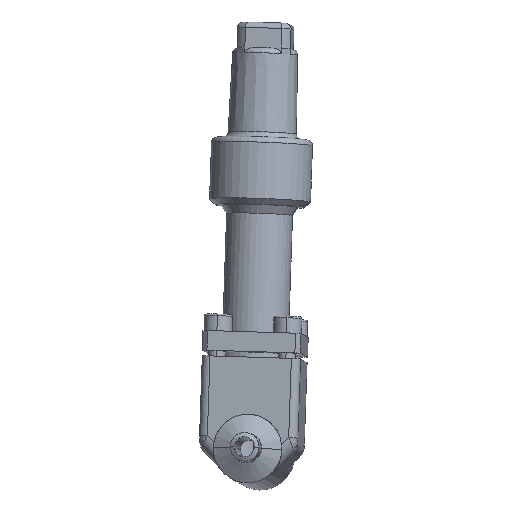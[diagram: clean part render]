
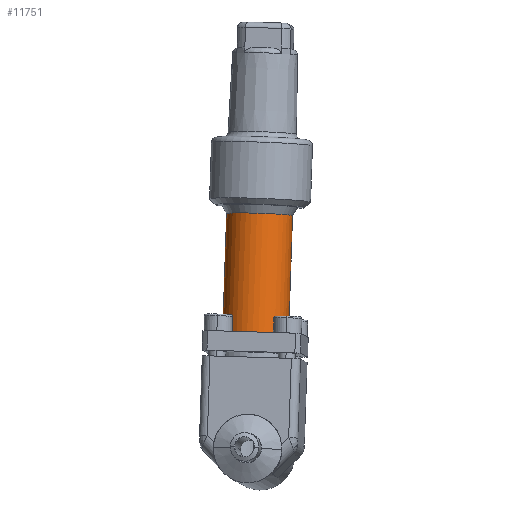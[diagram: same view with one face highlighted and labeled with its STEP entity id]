
A CAD part, top view. The second image highlights one B-rep face of the part: STEP entity #11751.
In plain terms, the highlighted cylindrical face has radius 11.75 mm (diameter 23.5 mm), a partial arc.
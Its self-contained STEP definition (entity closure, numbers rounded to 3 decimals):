
#2225 = FACE_OUTER_BOUND ( 'NONE', #11522, .T. ) ;
#2244 = CYLINDRICAL_SURFACE ( 'NONE', #2245, 11.75 ) ;
#2245 = AXIS2_PLACEMENT_3D ( 'NONE', #2248, #2249, #2250 ) ;
#2248 = CARTESIAN_POINT ( 'NONE',  ( 0., 0., -52.5 ) ) ;
#2249 = DIRECTION ( 'NONE',  ( 0., 0., 1. ) ) ;
#2250 = DIRECTION ( 'NONE',  ( 1., 0., 0. ) ) ;
#5359 = LINE ( 'NONE', #5360, #5362 ) ;
#5360 = CARTESIAN_POINT ( 'NONE',  ( 11.75, 0., -52.5 ) ) ;
#5362 = VECTOR ( 'NONE', #5363, 1000. ) ;
#5363 = DIRECTION ( 'NONE',  ( 0., 0., 1. ) ) ;
#6529 = CARTESIAN_POINT ( 'NONE',  ( -11.75, 0., -49.469 ) ) ;
#8079 = EDGE_CURVE ( 'NONE', #13270, #13031, #5359, .T. ) ;
#8411 = CIRCLE ( 'NONE', #8412, 11.75 ) ;
#8412 = AXIS2_PLACEMENT_3D ( 'NONE', #8413, #8414, #8415 ) ;
#8413 = CARTESIAN_POINT ( 'NONE',  ( 0., 0., -7.2 ) ) ;
#8414 = DIRECTION ( 'NONE',  ( 0., 0., -1. ) ) ;
#8415 = DIRECTION ( 'NONE',  ( 1., 0., 0. ) ) ;
#8438 = ORIENTED_EDGE ( 'NONE', *, *, #8079, .F. ) ;
#8453 = CARTESIAN_POINT ( 'NONE',  ( 11.75, 0., -7.2 ) ) ;
#8940 = EDGE_CURVE ( 'NONE', #13154, #13031, #8411, .T. ) ;
#9293 = ORIENTED_EDGE ( 'NONE', *, *, #8940, .T. ) ;
#9797 = EDGE_CURVE ( 'NONE', #12975, #13154, #13825, .T. ) ;
#10159 = ORIENTED_EDGE ( 'NONE', *, *, #9797, .T. ) ;
#10657 = EDGE_CURVE ( 'NONE', #12975, #13270, #14455, .T. ) ;
#11019 = ORIENTED_EDGE ( 'NONE', *, *, #10657, .F. ) ;
#11354 = CARTESIAN_POINT ( 'NONE',  ( -11.75, 0., -7.2 ) ) ;
#11522 = EDGE_LOOP ( 'NONE', ( #11019, #10159, #9293, #8438 ) ) ;
#11751 = ADVANCED_FACE ( 'NONE', ( #2225 ), #2244, .T. ) ;
#12365 = CARTESIAN_POINT ( 'NONE',  ( 11.75, 0., -49.469 ) ) ;
#12975 = VERTEX_POINT ( 'NONE', #6529 ) ;
#13031 = VERTEX_POINT ( 'NONE', #8453 ) ;
#13154 = VERTEX_POINT ( 'NONE', #11354 ) ;
#13270 = VERTEX_POINT ( 'NONE', #12365 ) ;
#13825 = LINE ( 'NONE', #13826, #13827 ) ;
#13826 = CARTESIAN_POINT ( 'NONE',  ( -11.75, 0., -52.5 ) ) ;
#13827 = VECTOR ( 'NONE', #13828, 1000. ) ;
#13828 = DIRECTION ( 'NONE',  ( 0., 0., 1. ) ) ;
#14455 = CIRCLE ( 'NONE', #14456, 11.75 ) ;
#14456 = AXIS2_PLACEMENT_3D ( 'NONE', #14457, #14458, #14459 ) ;
#14457 = CARTESIAN_POINT ( 'NONE',  ( 0., 0., -49.469 ) ) ;
#14458 = DIRECTION ( 'NONE',  ( 0., 0., -1. ) ) ;
#14459 = DIRECTION ( 'NONE',  ( -1., 0., 0. ) ) ;
